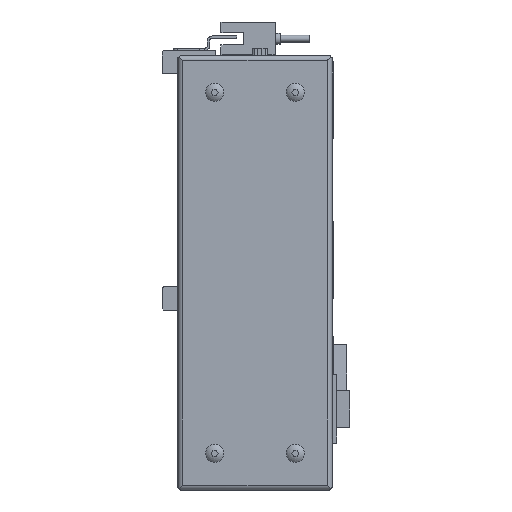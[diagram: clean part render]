
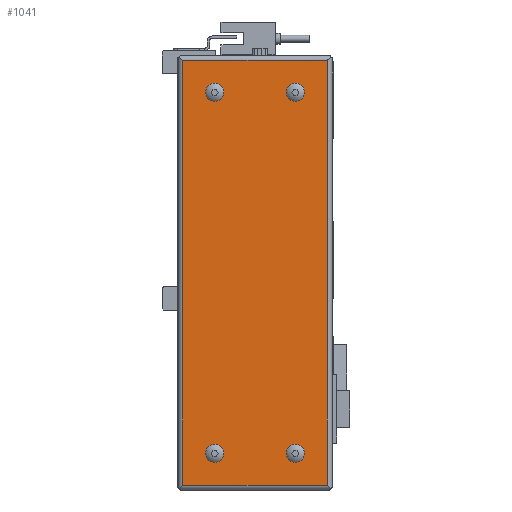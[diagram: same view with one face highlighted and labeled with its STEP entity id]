
A CAD part, left-side view. The second image highlights one B-rep face of the part: STEP entity #1041.
In plain terms, the highlighted planar face has unit normal (-1, 0, 0).
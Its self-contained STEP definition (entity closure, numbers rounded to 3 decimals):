
#1041 = ADVANCED_FACE( '', ( #2637, #2638, #2639, #2640, #2641 ), #2642, .F. );
#2637 = FACE_BOUND( '', #4980, .T. );
#2638 = FACE_BOUND( '', #4981, .T. );
#2639 = FACE_BOUND( '', #4982, .T. );
#2640 = FACE_BOUND( '', #4983, .T. );
#2641 = FACE_OUTER_BOUND( '', #4984, .T. );
#2642 = PLANE( '', #4985 );
#4980 = EDGE_LOOP( '', ( #7744 ) );
#4981 = EDGE_LOOP( '', ( #7745 ) );
#4982 = EDGE_LOOP( '', ( #7746 ) );
#4983 = EDGE_LOOP( '', ( #7747 ) );
#4984 = EDGE_LOOP( '', ( #7748, #7749, #7750, #7751 ) );
#4985 = AXIS2_PLACEMENT_3D( '', #7752, #7753, #7754 );
#7744 = ORIENTED_EDGE( '', *, *, #13947, .F. );
#7745 = ORIENTED_EDGE( '', *, *, #13948, .F. );
#7746 = ORIENTED_EDGE( '', *, *, #13949, .F. );
#7747 = ORIENTED_EDGE( '', *, *, #13950, .F. );
#7748 = ORIENTED_EDGE( '', *, *, #13951, .F. );
#7749 = ORIENTED_EDGE( '', *, *, #13952, .F. );
#7750 = ORIENTED_EDGE( '', *, *, #13599, .T. );
#7751 = ORIENTED_EDGE( '', *, *, #13652, .T. );
#7752 = CARTESIAN_POINT( '', ( -52., 0., 0. ) );
#7753 = DIRECTION( '', ( 1., 0., 0. ) );
#7754 = DIRECTION( '', ( 0., 0., -1. ) );
#13599 = EDGE_CURVE( '', #16185, #16186, #16187, .T. );
#13652 = EDGE_CURVE( '', #16186, #16281, #16283, .T. );
#13947 = EDGE_CURVE( '', #16807, #16807, #16808, .F. );
#13948 = EDGE_CURVE( '', #16809, #16809, #16810, .F. );
#13949 = EDGE_CURVE( '', #16811, #16811, #16812, .F. );
#13950 = EDGE_CURVE( '', #16813, #16813, #16814, .F. );
#13951 = EDGE_CURVE( '', #16815, #16281, #16816, .T. );
#13952 = EDGE_CURVE( '', #16185, #16815, #16817, .T. );
#16185 = VERTEX_POINT( '', #19992 );
#16186 = VERTEX_POINT( '', #19993 );
#16187 = LINE( '', #19994, #19995 );
#16281 = VERTEX_POINT( '', #20117 );
#16283 = LINE( '', #20119, #20120 );
#16807 = VERTEX_POINT( '', #20934 );
#16808 = CIRCLE( '', #20935, 3.7 );
#16809 = VERTEX_POINT( '', #20936 );
#16810 = CIRCLE( '', #20937, 3.7 );
#16811 = VERTEX_POINT( '', #20938 );
#16812 = CIRCLE( '', #20939, 3.7 );
#16813 = VERTEX_POINT( '', #20940 );
#16814 = CIRCLE( '', #20941, 3.7 );
#16815 = VERTEX_POINT( '', #20942 );
#16816 = LINE( '', #20943, #20944 );
#16817 = LINE( '', #20945, #20946 );
#19992 = CARTESIAN_POINT( '', ( -52., 61.5, 49. ) );
#19993 = CARTESIAN_POINT( '', ( -52., 61.5, -124.5 ) );
#19994 = CARTESIAN_POINT( '', ( -52., 61.5, 177.5 ) );
#19995 = VECTOR( '', #25437, 1000. );
#20117 = CARTESIAN_POINT( '', ( -52., 2.5, -124.5 ) );
#20119 = CARTESIAN_POINT( '', ( -52., 177.5, -124.5 ) );
#20120 = VECTOR( '', #25514, 1000. );
#20934 = CARTESIAN_POINT( '', ( -52., 48.5, -115.2 ) );
#20935 = AXIS2_PLACEMENT_3D( '', #25893, #25894, #25895 );
#20936 = CARTESIAN_POINT( '', ( -52., 15.5, 32.3 ) );
#20937 = AXIS2_PLACEMENT_3D( '', #25896, #25897, #25898 );
#20938 = CARTESIAN_POINT( '', ( -52., 15.5, -115.2 ) );
#20939 = AXIS2_PLACEMENT_3D( '', #25899, #25900, #25901 );
#20940 = CARTESIAN_POINT( '', ( -52., 48.5, 32.3 ) );
#20941 = AXIS2_PLACEMENT_3D( '', #25902, #25903, #25904 );
#20942 = CARTESIAN_POINT( '', ( -52., 2.5, 49. ) );
#20943 = CARTESIAN_POINT( '', ( -52., 2.5, 177.5 ) );
#20944 = VECTOR( '', #25905, 1000. );
#20945 = CARTESIAN_POINT( '', ( -52., 177.5, 49. ) );
#20946 = VECTOR( '', #25906, 1000. );
#25437 = DIRECTION( '', ( 0., 0., -1. ) );
#25514 = DIRECTION( '', ( 0., -1., 0. ) );
#25893 = CARTESIAN_POINT( '', ( -52., 48.5, -111.5 ) );
#25894 = DIRECTION( '', ( 1., 0., 0. ) );
#25895 = DIRECTION( '', ( 0., 0., -1. ) );
#25896 = CARTESIAN_POINT( '', ( -52., 15.5, 36. ) );
#25897 = DIRECTION( '', ( 1., 0., 0. ) );
#25898 = DIRECTION( '', ( 0., 0., -1. ) );
#25899 = CARTESIAN_POINT( '', ( -52., 15.5, -111.5 ) );
#25900 = DIRECTION( '', ( 1., 0., 0. ) );
#25901 = DIRECTION( '', ( 0., 0., -1. ) );
#25902 = CARTESIAN_POINT( '', ( -52., 48.5, 36. ) );
#25903 = DIRECTION( '', ( 1., 0., 0. ) );
#25904 = DIRECTION( '', ( 0., 0., -1. ) );
#25905 = DIRECTION( '', ( 0., 0., -1. ) );
#25906 = DIRECTION( '', ( 0., -1., 0. ) );
